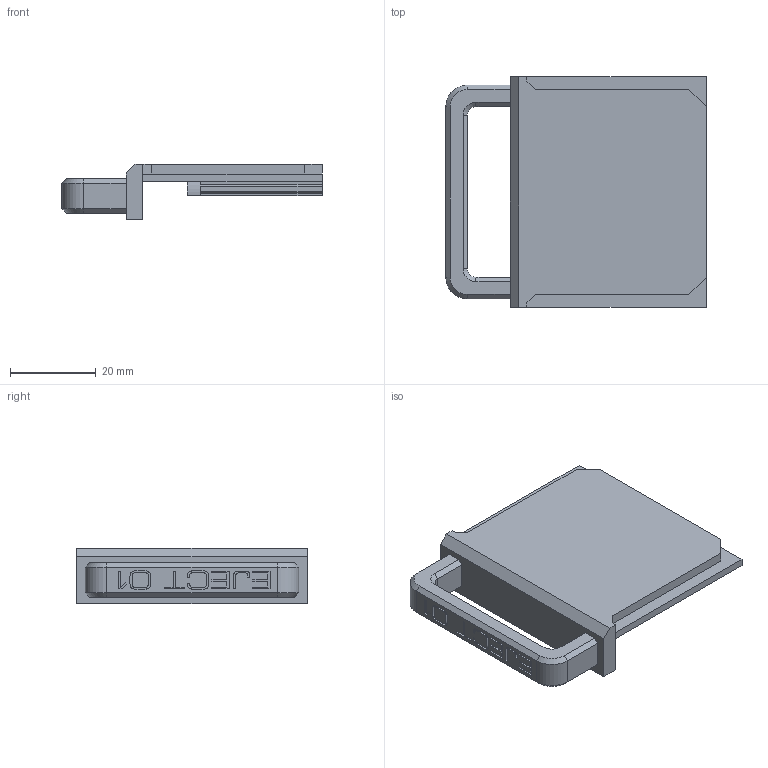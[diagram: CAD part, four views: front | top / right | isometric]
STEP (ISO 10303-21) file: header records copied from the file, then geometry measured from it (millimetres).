
FILE_DESCRIPTION(/* description */ ('STEP AP242','CAx-IF Rec.Pracs.---Representation and Presentation of Product Manufacturing Information (PMI)---4.0---2014-10-13','CAx-IF Rec.Pracs.---3D Tessellated Geometry---0.4---2014-09-14','2;1'),/* implementation_level */ '2;1');
FILE_NAME(/* name */ '687e6bf4f344454910d481b2',/* time_stamp */ '2025-07-21T16:33:56Z',/* author */ (''),/* organization */ (''),/* preprocessor_version */ 'ST-DEVELOPER v20',/* originating_system */ 'ONSHAPE BY PTC INC, 1.201',/* authorisation */ ' ');
FILE_SCHEMA (('AP242_MANAGED_MODEL_BASED_3D_ENGINEERING_MIM_LF { 1 0 10303 442 1 1 4 }'));
Length unit declared in the file: metre
Products named in the file (1): Eject One
Bounding box: 60.55 x 53.7 x 12.85 mm (x, y, z)
Volume: 13579 mm3; surface area: 9294.5 mm2
Topology: 1 solids, 1 shells, 276 faces, 780 edges, 514 vertices
Faces by surface type: plane 146, cylinder 87, bspline 35, cone 8
Entity records: 9070 total; most frequent: CARTESIAN_POINT 1956, ORIENTED_EDGE 1560, DIRECTION 1378, EDGE_CURVE 780, LINE 526, VECTOR 526, VERTEX_POINT 514, AXIS2_PLACEMENT_3D 426
